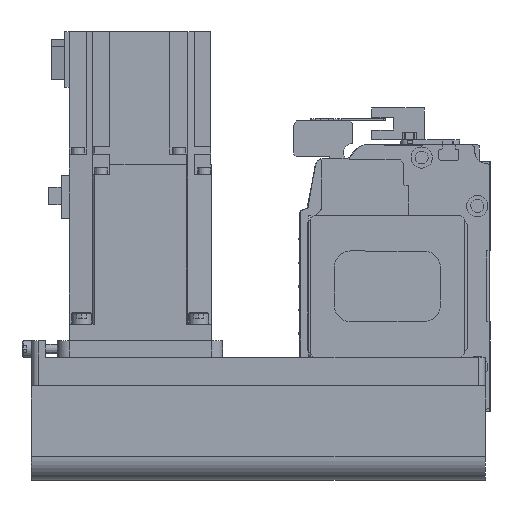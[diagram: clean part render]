
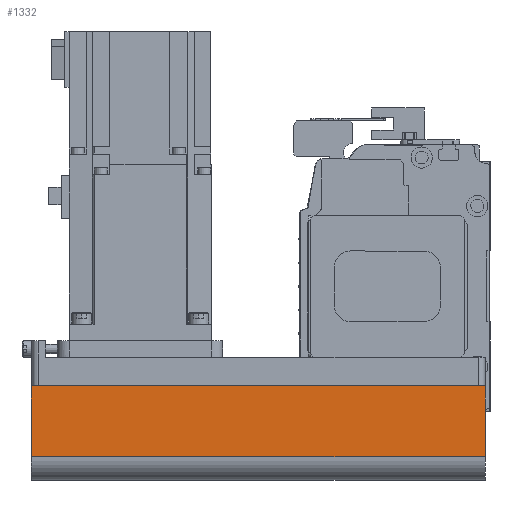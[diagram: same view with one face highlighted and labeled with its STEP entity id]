
A CAD part, left-side view. The second image highlights one B-rep face of the part: STEP entity #1332.
In plain terms, the highlighted planar face has unit normal (-1, 0, 0) as drawn and (0, -1, 0) by its records, which use the part's own axes.
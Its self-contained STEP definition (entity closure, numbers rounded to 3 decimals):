
#1332 = ADVANCED_FACE( '', ( #3177 ), #3178, .T. );
#3177 = FACE_OUTER_BOUND( '', #5665, .T. );
#3178 = PLANE( '', #5666 );
#5665 = EDGE_LOOP( '', ( #9286, #9287, #9288, #9289 ) );
#5666 = AXIS2_PLACEMENT_3D( '', #9290, #9291, #9292 );
#9286 = ORIENTED_EDGE( '', *, *, #14446, .F. );
#9287 = ORIENTED_EDGE( '', *, *, #14138, .F. );
#9288 = ORIENTED_EDGE( '', *, *, #15037, .T. );
#9289 = ORIENTED_EDGE( '', *, *, #14387, .T. );
#9290 = CARTESIAN_POINT( '', ( -192., -40., -12.1 ) );
#9291 = DIRECTION( '', ( 0., -1., 0. ) );
#9292 = DIRECTION( '', ( 0., 0., -1. ) );
#14138 = EDGE_CURVE( '', #16800, #16802, #16803, .T. );
#14387 = EDGE_CURVE( '', #17233, #17230, #17234, .T. );
#14446 = EDGE_CURVE( '', #16802, #17230, #17333, .T. );
#15037 = EDGE_CURVE( '', #16800, #17233, #18299, .T. );
#16800 = VERTEX_POINT( '', #20655 );
#16802 = VERTEX_POINT( '', #20658 );
#16803 = LINE( '', #20659, #20660 );
#17230 = VERTEX_POINT( '', #21226 );
#17233 = VERTEX_POINT( '', #21229 );
#17234 = LINE( '', #21230, #21231 );
#17333 = LINE( '', #21353, #21354 );
#18299 = LINE( '', #22632, #22633 );
#20655 = CARTESIAN_POINT( '', ( -192., -40., -12.1 ) );
#20658 = CARTESIAN_POINT( '', ( 0., -40., -12.1 ) );
#20659 = CARTESIAN_POINT( '', ( -192., -40., -12.1 ) );
#20660 = VECTOR( '', #25394, 1000. );
#21226 = CARTESIAN_POINT( '', ( 0., -40., -42. ) );
#21229 = CARTESIAN_POINT( '', ( -192., -40., -42. ) );
#21230 = CARTESIAN_POINT( '', ( -192., -40., -42. ) );
#21231 = VECTOR( '', #25726, 1000. );
#21353 = CARTESIAN_POINT( '', ( 0., -40., -12.1 ) );
#21354 = VECTOR( '', #25810, 1000. );
#22632 = CARTESIAN_POINT( '', ( -192., -40., -12.1 ) );
#22633 = VECTOR( '', #26573, 1000. );
#25394 = DIRECTION( '', ( 1., 0., 0. ) );
#25726 = DIRECTION( '', ( 1., 0., 0. ) );
#25810 = DIRECTION( '', ( 0., 0., -1. ) );
#26573 = DIRECTION( '', ( 0., 0., -1. ) );
